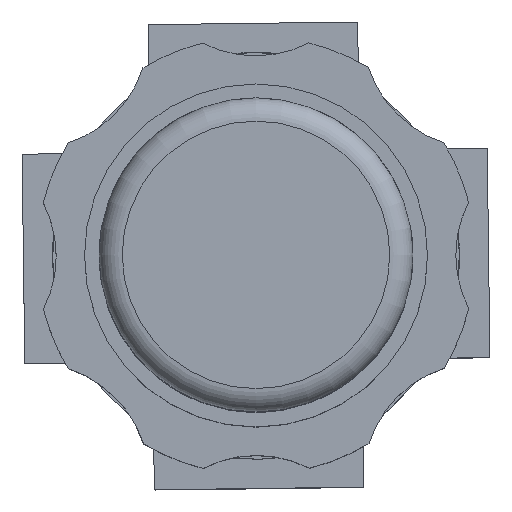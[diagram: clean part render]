
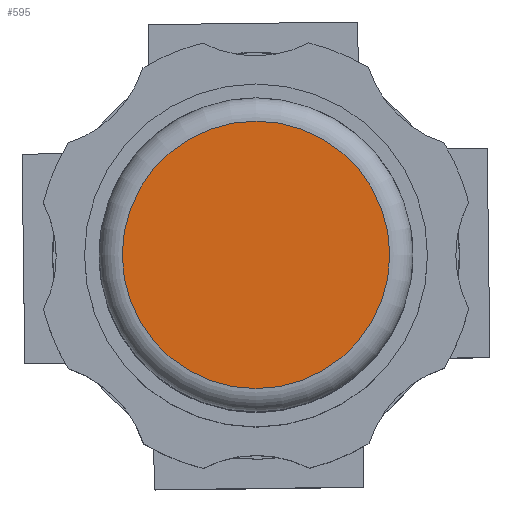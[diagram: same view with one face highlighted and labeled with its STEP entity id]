
A CAD part, top view. The second image highlights one B-rep face of the part: STEP entity #595.
In plain terms, the highlighted planar face has unit normal (0, 0, 1).
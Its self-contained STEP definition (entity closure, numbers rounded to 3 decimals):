
#112=CARTESIAN_POINT('',(11.5,0.,48.5));
#113=VERTEX_POINT('',#112);
#114=CARTESIAN_POINT('',(0.0,0.0,48.5));
#115=DIRECTION('',(0.0,0.0,-1.0));
#116=DIRECTION('',(-1.0,0.0,0.0));
#117=AXIS2_PLACEMENT_3D('',#114,#115,#116);
#118=CIRCLE('',#117,11.5);
#119=EDGE_CURVE('',#113,#113,#118,.T.);
#587=CARTESIAN_POINT('',(0.0,0.0,48.5));
#588=DIRECTION('',(0.0,0.0,-1.0));
#589=DIRECTION('',(-1.0,0.0,0.0));
#590=AXIS2_PLACEMENT_3D('',#587,#588,#589);
#591=PLANE('',#590);
#592=ORIENTED_EDGE('',*,*,#119,.F.);
#593=EDGE_LOOP('',(#592));
#594=FACE_OUTER_BOUND('',#593,.T.);
#595=ADVANCED_FACE('',(#594),#591,.F.);
